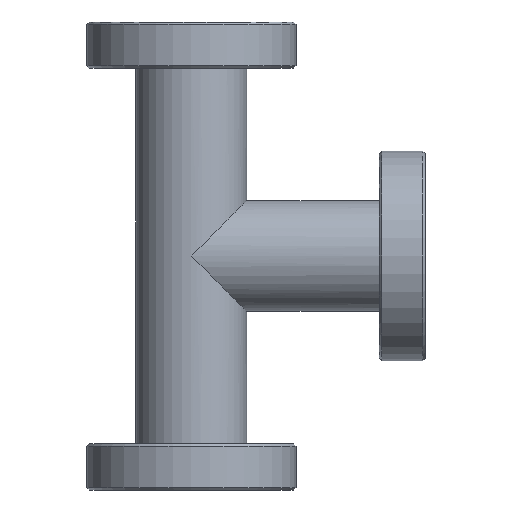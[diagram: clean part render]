
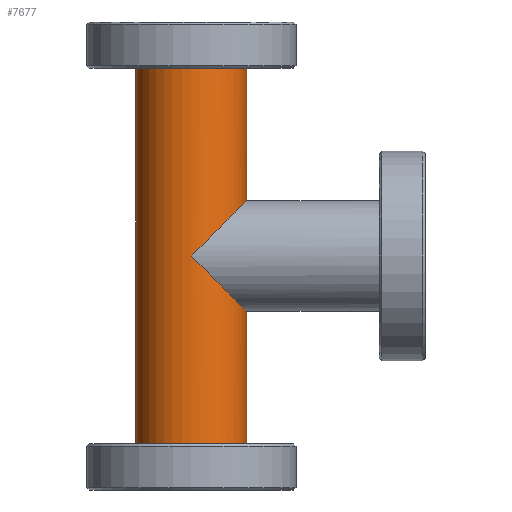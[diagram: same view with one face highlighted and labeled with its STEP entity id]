
A CAD part, front view. The second image highlights one B-rep face of the part: STEP entity #7677.
In plain terms, the highlighted cylindrical face has radius 9 mm (diameter 18 mm), a partial arc.
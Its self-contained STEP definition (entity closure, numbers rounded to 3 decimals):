
#222=CARTESIAN_POINT('',(-9.0,0.,33.794));
#223=VERTEX_POINT('',#222);
#224=CARTESIAN_POINT('',(-9.0,0.,-33.8));
#225=VERTEX_POINT('',#224);
#226=CARTESIAN_POINT('',(-9.0,0.,33.794));
#227=DIRECTION('',(0.0,0.0,-1.0));
#228=VECTOR('',#227,67.594);
#229=LINE('',#226,#228);
#230=EDGE_CURVE('',#223,#225,#229,.T.);
#232=CARTESIAN_POINT('',(9.0,0.,33.794));
#233=VERTEX_POINT('',#232);
#241=CARTESIAN_POINT('',(9.0,0.,9.));
#242=VERTEX_POINT('',#241);
#243=CARTESIAN_POINT('',(9.0,0.,9.));
#244=DIRECTION('',(0.0,0.0,1.0));
#245=VECTOR('',#244,24.794);
#246=LINE('',#243,#245);
#247=EDGE_CURVE('',#242,#233,#246,.T.);
#258=CARTESIAN_POINT('',(9.,0.,-9.0));
#259=VERTEX_POINT('',#258);
#267=CARTESIAN_POINT('',(9.0,0.,-33.8));
#268=VERTEX_POINT('',#267);
#269=CARTESIAN_POINT('',(9.0,0.,-33.8));
#270=DIRECTION('',(0.0,0.0,1.0));
#271=VECTOR('',#270,24.8);
#272=LINE('',#269,#271);
#273=EDGE_CURVE('',#268,#259,#272,.T.);
#4928=CARTESIAN_POINT('',(0.0,0.0,-33.8));
#4929=DIRECTION('',(0.0,0.0,1.0));
#4930=DIRECTION('',(-1.0,0.0,0.0));
#4931=AXIS2_PLACEMENT_3D('',#4928,#4929,#4930);
#4932=CIRCLE('',#4931,9.0);
#4933=EDGE_CURVE('',#225,#268,#4932,.T.);
#7411=CARTESIAN_POINT('',(0.0,0.0,33.794));
#7412=DIRECTION('',(0.0,0.0,-1.0));
#7413=DIRECTION('',(-1.0,0.0,0.0));
#7414=AXIS2_PLACEMENT_3D('',#7411,#7412,#7413);
#7415=CIRCLE('',#7414,9.0);
#7416=EDGE_CURVE('',#233,#223,#7415,.T.);
#7630=CARTESIAN_POINT('',(0.0,-9.0,0.0));
#7631=VERTEX_POINT('',#7630);
#7632=CARTESIAN_POINT('',(0.0,0.0,0.0));
#7633=DIRECTION('',(0.707,0.0,-0.707));
#7634=DIRECTION('',(0.707,0.0,0.707));
#7635=AXIS2_PLACEMENT_3D('',#7632,#7633,#7634);
#7636=ELLIPSE('',#7635,12.728,9.0);
#7637=EDGE_CURVE('',#242,#7631,#7636,.T.);
#7639=CARTESIAN_POINT('',(0.0,0.0,0.0));
#7640=DIRECTION('',(-0.707,0.0,-0.707));
#7641=DIRECTION('',(0.707,0.0,-0.707));
#7642=AXIS2_PLACEMENT_3D('',#7639,#7640,#7641);
#7643=ELLIPSE('',#7642,12.728,9.);
#7644=EDGE_CURVE('',#259,#7631,#7643,.T.);
#7663=CARTESIAN_POINT('',(0.0,0.0,0.0));
#7664=DIRECTION('',(0.0,0.0,-1.0));
#7665=DIRECTION('',(-1.0,0.0,0.0));
#7666=AXIS2_PLACEMENT_3D('',#7663,#7664,#7665);
#7667=CYLINDRICAL_SURFACE('',#7666,9.0);
#7668=ORIENTED_EDGE('',*,*,#230,.T.);
#7669=ORIENTED_EDGE('',*,*,#4933,.T.);
#7670=ORIENTED_EDGE('',*,*,#273,.T.);
#7671=ORIENTED_EDGE('',*,*,#7644,.T.);
#7672=ORIENTED_EDGE('',*,*,#7637,.F.);
#7673=ORIENTED_EDGE('',*,*,#247,.T.);
#7674=ORIENTED_EDGE('',*,*,#7416,.T.);
#7675=EDGE_LOOP('',(#7668,#7669,#7670,#7671,#7672,#7673,#7674));
#7676=FACE_OUTER_BOUND('',#7675,.T.);
#7677=ADVANCED_FACE('',(#7676),#7667,.T.);
